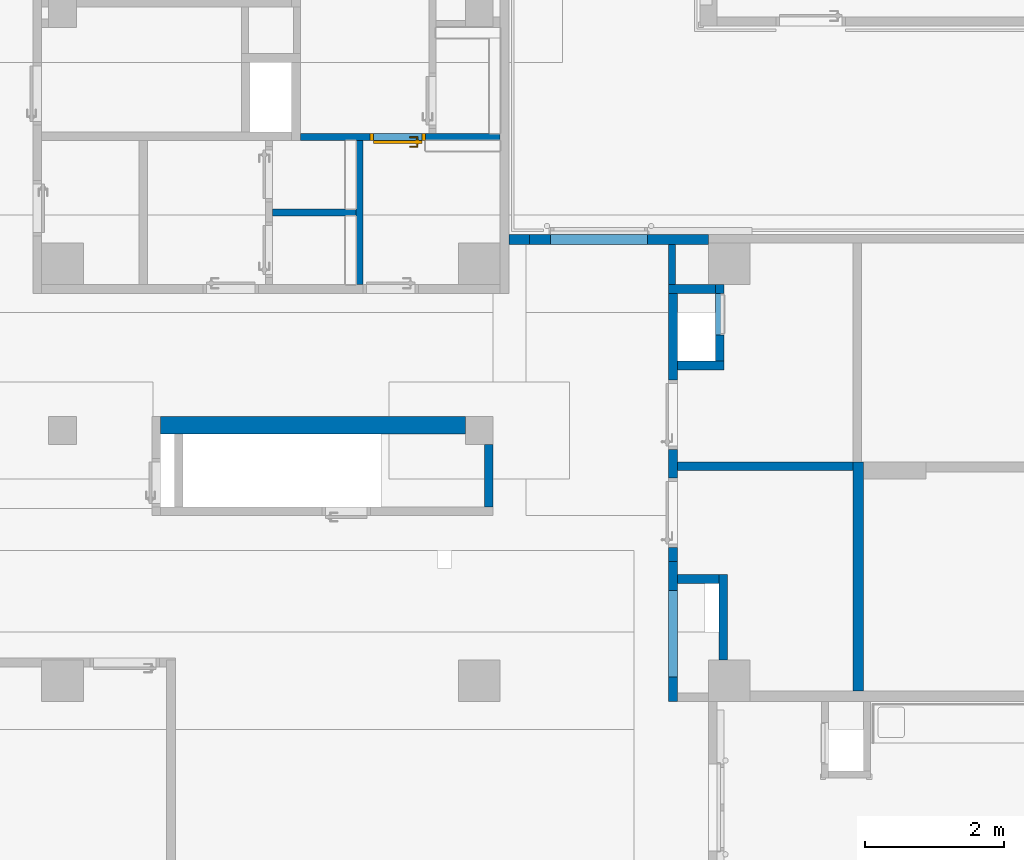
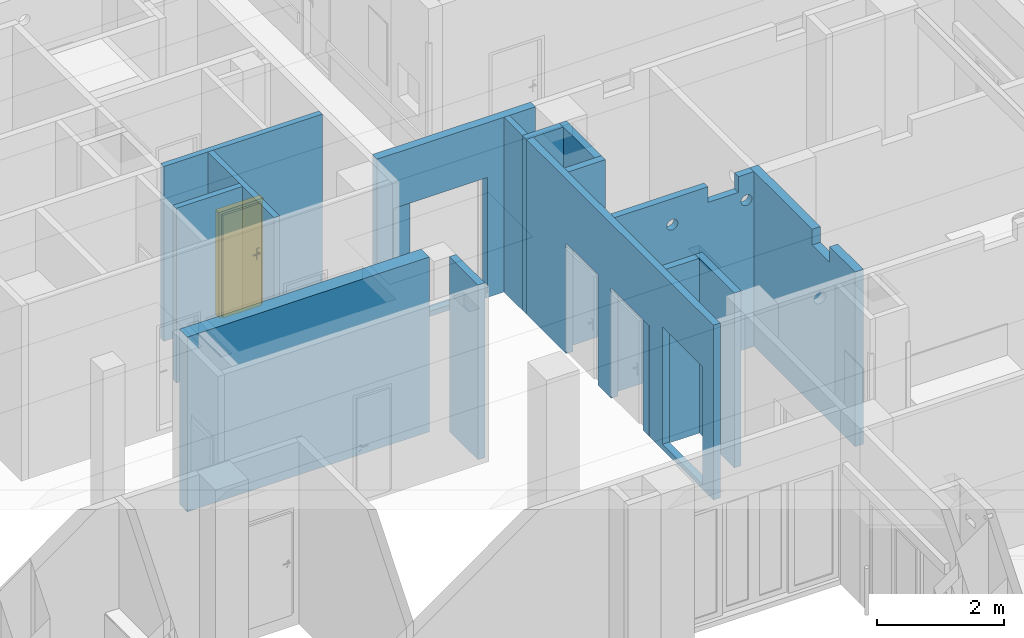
# One storey, part 41 of 140: 17 walls, 1 door, 12 openings.
"""IFC4 building model written with IfcOpenShell, lengths in metres."""

from ifc_helpers import new_model, entity, si_unit, converted_unit, derived_unit, frame, frame_2d, origin, origin_with_axes, place, context, subcontext, project, spatial, polyline, rectangle, outline, extrude, closed_shell, open_shell, surface_model, source, transform, mapped, material, layer, layer_set, layer_usage, type_object, element, fill, save


model = new_model("IFC4")

# Units and contexts
model_context = context("Model", 3, precision=1e-05, world=origin())
body_context = subcontext(model_context, "Body", "Model", "MODEL_VIEW")
ifc_project = project(units=[si_unit("LENGTHUNIT", "METRE"), si_unit("AREAUNIT", "SQUARE_METRE"), si_unit("VOLUMEUNIT", "CUBIC_METRE"), si_unit("MASSUNIT", "GRAM", prefix="KILO"), converted_unit("PLANEANGLEUNIT", "DEGREE", entity("IfcPlaneAngleMeasure", 0.0174532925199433), si_unit("PLANEANGLEUNIT", "RADIAN"), dimensions=[0, 0, 0, 0, 0, 0, 0]), derived_unit("THERMALTRANSMITTANCEUNIT", [(si_unit("POWERUNIT", "WATT"), 1), (si_unit("THERMODYNAMICTEMPERATUREUNIT", "KELVIN"), -1), (si_unit("LENGTHUNIT", "METRE"), -2)]), derived_unit("VOLUMETRICFLOWRATEUNIT", [(si_unit("LENGTHUNIT", "METRE"), 3), (converted_unit("TIMEUNIT", "hour", entity("IfcTimeMeasure", 3600.0), si_unit("TIMEUNIT", "SECOND"), dimensions=[0, 0, 1, 0, 0, 0, 0]), -1), (si_unit("LENGTHUNIT", "METRE"), -1)])], contexts=[model_context])

# Site, building, storey
site_placement = place(None, origin())
site = spatial("IfcSite", under=ifc_project, at=site_placement, Name="3. ASŘ", CompositionType="ELEMENT")
building_placement = place(site_placement, origin())
building = spatial("IfcBuilding", under=site, at=building_placement, Name="Pavilon C", CompositionType="ELEMENT")
storey_placement = place(building_placement, origin())
storey = spatial("IfcBuildingStorey", under=building, at=storey_placement, Name="Půdorys 1.NP", CompositionType="ELEMENT", Elevation=0.0)

# Walls
ifc_material_1 = material(Name="ZDIVO Z CDm")
ifc_layer_1 = layer(ifc_material_1, 0.125)
ifc_layer_set_1 = layer_set([ifc_layer_1])
ifc_layer_usage_1 = layer_usage(ifc_layer_set_1, "AXIS2", "POSITIVE", 0.0)
wall_1_placement = place(storey_placement, frame((40.425, 10.6, -0.1), z_axis=(0.0, 0.0, 1.0), x_axis=(0.0, -1.0, 0.0)))
element("IfcWall", 1, at=wall_1_placement, inside=storey, material=ifc_layer_usage_1, Name="ZDIVO Z CDm", context=body_context, shape_type="SweptSolid", body=[
    extrude(rectangle(XDim=0.9, YDim=0.125, at=frame_2d((0.45, 0.0625), x_axis=(1.0, 0.0))), origin_with_axes(), (0.0, 0.0, 1.0), 3.35),
])
ifc_material_2 = material(Name="ZDIVO Z CDm")
ifc_layer_2 = layer(ifc_material_2, 0.25)
ifc_layer_set_2 = layer_set([ifc_layer_2])
ifc_layer_usage_2 = layer_usage(ifc_layer_set_2, "AXIS2", "POSITIVE", 0.0)
wall_2_placement = place(storey_placement, frame((35.7625, 10.75, -0.1)))
element("IfcWall", 2, at=wall_2_placement, inside=storey, material=ifc_layer_usage_2, Name="ZDIVO Z CDm", context=body_context, shape_type="SweptSolid", body=[
    extrude(rectangle(XDim=4.3875, YDim=0.25, at=frame_2d((2.19375, 0.125), x_axis=(1.0, 0.0))), origin_with_axes(), (0.0, 0.0, 1.0), 3.35),
])
ifc_material_3 = material(Name="YTONG 100")
ifc_layer_3 = layer(ifc_material_3, 0.1)
ifc_layer_set_3 = layer_set([ifc_layer_3])
ifc_layer_usage_3 = layer_usage(ifc_layer_set_3, "AXIS2", "POSITIVE", 0.0)
wall_3_placement = place(storey_placement, frame((38.675, 12.9, -0.1), z_axis=(0.0, 0.0, 1.0), x_axis=(0.0, 1.0, 0.0)))
element("IfcWall", 3, at=wall_3_placement, inside=storey, material=ifc_layer_usage_3, Name="YTONG 100", context=body_context, shape_type="SweptSolid", body=[
    extrude(rectangle(XDim=2.075, YDim=0.1, at=frame_2d((1.0375, 0.05), x_axis=(1.0, 0.0))), origin_with_axes(), (0.0, 0.0, 1.0), 3.35),
])

# Wall, opening, door
ifc_material_4 = material(Name="YTONG 100")
ifc_layer_4 = layer(ifc_material_4, 0.1)
ifc_layer_set_4 = layer_set([ifc_layer_4])
ifc_layer_usage_4 = layer_usage(ifc_layer_set_4, "AXIS2", "POSITIVE", 0.0)
wall_4_placement = place(storey_placement, frame((37.775, 14.975, -0.1)))
wall_4 = element("IfcWall", 4, at=wall_4_placement, inside=storey, material=ifc_layer_usage_4, Name="YTONG 100", context=body_context, shape_type="SweptSolid", body=[
    extrude(rectangle(XDim=2.875, YDim=0.1, at=frame_2d((1.4375, 0.05), x_axis=(1.0, 0.0))), origin_with_axes(), (0.0, 0.0, 1.0), 3.35),
])
opening_1_placement = place(wall_4_placement, frame((1.0, 0.0, 0.1), z_axis=(0.0, 1.0, 0.0), x_axis=(0.0, 0.0, 1.0)))
opening_1 = element("IfcOpeningElement", 5, at=opening_1_placement, cuts=wall_4, Name="Dveřní otvor", ObjectType="Opening", context=body_context, shape_type="SweptSolid", body=[
    extrude(outline(polyline([(0.0, 0.8), (2.02, 0.8), (2.02, 0.0), (0.0, 0.0), (0.0, 0.8)])), origin_with_axes(), (0.0, 0.0, 1.0), 0.1),
])
door_type = type_object("IfcDoorType", Name="D101", OperationType="NOTDEFINED", ParameterTakesPrecedence=False, PredefinedType="DOOR")
shared_shape = source(origin_with_axes(), body_context, "Body", "SurfaceModel", [
    surface_model("IfcShellBasedSurfaceModel", [(0.0, 0.1, 2.02), (0.0, 0.1, -6.12323399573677e-18), (0.05, 0.1, -6.12323399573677e-18), (0.05, 0.1, 2.02), (0.0, 0.0, 6.12323399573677e-18), (0.0, 2.41584530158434e-16, 2.02), (0.05, 2.41584530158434e-16, 2.02), (0.05, 0.0, 6.12323399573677e-18)], [closed_shell([[[0, 1, 2, 3]], [[4, 5, 6, 7]], [[1, 0, 5, 4]], [[2, 1, 4, 7]], [[3, 2, 7, 6]], [[0, 3, 6, 5]]], orient=[[False], [False], [False], [False], [False], [False]])]),
    surface_model("IfcShellBasedSurfaceModel", [(0.75, 0.1, 2.02), (0.75, 0.1, -6.12323399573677e-18), (0.8, 0.1, -6.12323399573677e-18), (0.8, 0.1, 2.02), (0.75, 0.0, 6.12323399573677e-18), (0.75, 2.41584530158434e-16, 2.02), (0.8, 2.41584530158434e-16, 2.02), (0.8, 0.0, 6.12323399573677e-18)], [closed_shell([[[0, 1, 2, 3]], [[4, 5, 6, 7]], [[1, 0, 5, 4]], [[2, 1, 4, 7]], [[3, 2, 7, 6]], [[0, 3, 6, 5]]], orient=[[False], [False], [False], [False], [False], [False]])]),
    surface_model("IfcShellBasedSurfaceModel", [(0.05, 0.1, 2.02), (0.05, 0.1, 1.97), (0.75, 0.1, 1.97), (0.75, 0.1, 2.02), (0.05, 2.41584530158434e-16, 1.97), (0.05, 2.41584530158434e-16, 2.02), (0.75, 2.41584530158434e-16, 2.02), (0.75, 2.41584530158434e-16, 1.97)], [closed_shell([[[0, 1, 2, 3]], [[4, 5, 6, 7]], [[1, 0, 5, 4]], [[2, 1, 4, 7]], [[3, 2, 7, 6]], [[0, 3, 6, 5]]], orient=[[False], [False], [False], [False], [False], [False]])]),
    surface_model("IfcShellBasedSurfaceModel", [(0.05, 0.14, 1.97), (0.05, 0.14, -1.10218211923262e-17), (0.75, 0.14, -1.10218211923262e-17), (0.75, 0.14, 1.97), (0.05, 0.1, -6.12323399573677e-18), (0.05, 0.1, 1.97), (0.75, 0.1, 1.97), (0.75, 0.1, -6.12323399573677e-18)], [closed_shell([[[0, 1, 2, 3]], [[4, 5, 6, 7]], [[1, 0, 5, 4]], [[2, 1, 4, 7]], [[3, 2, 7, 6]], [[0, 3, 6, 5]]], orient=[[False], [False], [False], [False], [False], [False]])]),
    surface_model("IfcShellBasedSurfaceModel", [(0.66, 0.1, 1.125), (0.66, 0.1, 0.91), (0.71, 0.1, 0.91), (0.71, 0.1, 1.125), (0.66, 0.0900000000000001, 0.91), (0.66, 0.0900000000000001, 1.125), (0.71, 0.0900000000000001, 1.125), (0.71, 0.0900000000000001, 0.91)], [closed_shell([[[0, 1, 2, 3]], [[4, 5, 6, 7]], [[1, 0, 5, 4]], [[2, 1, 4, 7]], [[3, 2, 7, 6]], [[0, 3, 6, 5]]], orient=[[False], [False], [False], [False], [False], [False]])]),
    surface_model("IfcShellBasedSurfaceModel", [(0.685, 0.0900000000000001, 1.06), (0.68, 0.0900000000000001, 1.05866025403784), (0.676339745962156, 0.0900000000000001, 1.055), (0.675, 0.0900000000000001, 1.05), (0.676339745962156, 0.0900000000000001, 1.045), (0.68, 0.0900000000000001, 1.04133974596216), (0.685, 0.0900000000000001, 1.04), (0.69, 0.0900000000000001, 1.04133974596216), (0.693660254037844, 0.0900000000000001, 1.045), (0.695, 0.0900000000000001, 1.05), (0.693660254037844, 0.0900000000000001, 1.055), (0.69, 0.0900000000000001, 1.05866025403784), (0.69, 0.0450000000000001, 1.05866025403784), (0.685, 0.0500000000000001, 1.06), (0.693660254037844, 0.0413397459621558, 1.055), (0.695, 0.0400000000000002, 1.05), (0.693660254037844, 0.0413397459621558, 1.045), (0.69, 0.0450000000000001, 1.04133974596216), (0.685, 0.0500000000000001, 1.04), (0.68, 0.0550000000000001, 1.04133974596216), (0.676339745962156, 0.0586602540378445, 1.045), (0.675, 0.0600000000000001, 1.05), (0.676339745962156, 0.0586602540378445, 1.055), (0.68, 0.0550000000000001, 1.05866025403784), (0.57, 0.0450000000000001, 1.05866025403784), (0.57, 0.0500000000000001, 1.06), (0.57, 0.0413397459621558, 1.055), (0.57, 0.0400000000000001, 1.05), (0.57, 0.0413397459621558, 1.045), (0.57, 0.0450000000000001, 1.04133974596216), (0.57, 0.0500000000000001, 1.04), (0.57, 0.0550000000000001, 1.04133974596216), (0.57, 0.0586602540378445, 1.045), (0.57, 0.0600000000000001, 1.05), (0.57, 0.0586602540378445, 1.055), (0.57, 0.0550000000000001, 1.05866025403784)], [open_shell([[[0, 1, 2, 3, 4, 5, 6, 7, 8, 9, 10, 11]], [[0, 11, 12, 13]], [[11, 10, 14, 12]], [[10, 9, 15, 14]], [[9, 8, 16, 15]], [[8, 7, 17, 16]], [[7, 6, 18, 17]], [[6, 5, 19, 18]], [[5, 4, 20, 19]], [[4, 3, 21, 20]], [[3, 2, 22, 21]], [[2, 1, 23, 22]], [[1, 0, 13, 23]], [[13, 12, 24, 25]], [[12, 14, 26, 24]], [[14, 15, 27, 26]], [[15, 16, 28, 27]], [[16, 17, 29, 28]], [[17, 18, 30, 29]], [[18, 19, 31, 30]], [[19, 20, 32, 31]], [[20, 21, 33, 32]], [[21, 22, 34, 33]], [[22, 23, 35, 34]], [[23, 13, 25, 35]]], orient=[[False], [False], [False], [False], [False], [False], [False], [False], [False], [False], [False], [False], [False], [False], [False], [False], [False], [False], [False], [False], [False], [False], [False], [False], [False]])]),
    surface_model("IfcShellBasedSurfaceModel", [(0.66, 0.14, 1.125), (0.71, 0.14, 1.125), (0.71, 0.14, 0.91), (0.66, 0.14, 0.91), (0.66, 0.15, 0.91), (0.71, 0.15, 0.91), (0.71, 0.15, 1.125), (0.66, 0.15, 1.125)], [closed_shell([[[0, 1, 2, 3]], [[4, 5, 6, 7]], [[3, 4, 7, 0]], [[2, 5, 4, 3]], [[1, 6, 5, 2]], [[0, 7, 6, 1]]], orient=[[False], [False], [False], [False], [False], [False]])]),
    surface_model("IfcShellBasedSurfaceModel", [(0.685, 0.15, 1.06), (0.69, 0.15, 1.05866025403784), (0.693660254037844, 0.15, 1.055), (0.695, 0.15, 1.05), (0.693660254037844, 0.15, 1.045), (0.69, 0.15, 1.04133974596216), (0.685, 0.15, 1.04), (0.68, 0.15, 1.04133974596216), (0.676339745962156, 0.15, 1.045), (0.675, 0.15, 1.05), (0.676339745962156, 0.15, 1.055), (0.68, 0.15, 1.05866025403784), (0.685, 0.19, 1.06), (0.69, 0.195, 1.05866025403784), (0.693660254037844, 0.198660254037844, 1.055), (0.695, 0.2, 1.05), (0.693660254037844, 0.198660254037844, 1.045), (0.69, 0.195, 1.04133974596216), (0.685, 0.19, 1.04), (0.68, 0.185, 1.04133974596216), (0.676339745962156, 0.181339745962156, 1.045), (0.675, 0.18, 1.05), (0.676339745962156, 0.181339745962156, 1.055), (0.68, 0.185, 1.05866025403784), (0.57, 0.19, 1.06), (0.57, 0.195, 1.05866025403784), (0.57, 0.198660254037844, 1.055), (0.57, 0.2, 1.05), (0.57, 0.198660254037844, 1.045), (0.57, 0.195, 1.04133974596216), (0.57, 0.19, 1.04), (0.57, 0.185, 1.04133974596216), (0.57, 0.181339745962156, 1.045), (0.57, 0.18, 1.05), (0.57, 0.181339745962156, 1.055), (0.57, 0.185, 1.05866025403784)], [open_shell([[[0, 1, 2, 3, 4, 5, 6, 7, 8, 9, 10, 11]], [[0, 12, 13, 1]], [[1, 13, 14, 2]], [[2, 14, 15, 3]], [[3, 15, 16, 4]], [[4, 16, 17, 5]], [[5, 17, 18, 6]], [[6, 18, 19, 7]], [[7, 19, 20, 8]], [[8, 20, 21, 9]], [[9, 21, 22, 10]], [[10, 22, 23, 11]], [[11, 23, 12, 0]], [[12, 24, 25, 13]], [[13, 25, 26, 14]], [[14, 26, 27, 15]], [[15, 27, 28, 16]], [[16, 28, 29, 17]], [[17, 29, 30, 18]], [[18, 30, 31, 19]], [[19, 31, 32, 20]], [[20, 32, 33, 21]], [[21, 33, 34, 22]], [[22, 34, 35, 23]], [[23, 35, 24, 12]]], orient=[[False], [False], [False], [False], [False], [False], [False], [False], [False], [False], [False], [False], [False], [False], [False], [False], [False], [False], [False], [False], [False], [False], [False], [False], [False]])]),
])
door_placement = place(opening_1_placement, frame((0.0, 0.0, 0.1), z_axis=(1.0, 0.0, 0.0), x_axis=(0.0, 1.0, -1.22464679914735e-16)))
door = element("IfcDoor", 6, at=door_placement, inside=storey, type_object=door_type, Name="D101", OverallHeight=2.02, OverallWidth=0.8, context=body_context, shape_type="MappedRepresentation", body=[
    mapped(shared_shape, transform((0.0, 0.0, 0.0), x_axis=(1.0, 0.0, 0.0), y_axis=(0.0, -1.0, 0.0), z_axis=(0.0, 0.0, 1.0), scale=1.0)),
])
fill(opening_1, door)

# Wall
ifc_material_5 = material(Name="YTONG 100")
ifc_layer_5 = layer(ifc_material_5, 0.1)
ifc_layer_set_5 = layer_set([ifc_layer_5])
ifc_layer_usage_5 = layer_usage(ifc_layer_set_5, "AXIS2", "POSITIVE", -0.05)
wall_5_placement = place(storey_placement, frame((37.375, 13.8875, -0.1)))
element("IfcWall", 7, at=wall_5_placement, inside=storey, material=ifc_layer_usage_5, Name="YTONG 100", context=body_context, shape_type="SweptSolid", body=[
    extrude(rectangle(XDim=1.2, YDim=0.1, at=frame_2d((0.6, 0.05), x_axis=(1.0, 0.0))), origin_with_axes(), (0.0, 0.0, 1.0), 3.35),
])

# Wall, openings
ifc_material_6 = material(Name="ZDIVO Z CDm")
ifc_layer_6 = layer(ifc_material_6, 0.125)
ifc_layer_set_6 = layer_set([ifc_layer_6])
ifc_layer_usage_6 = layer_usage(ifc_layer_set_6, "AXIS2", "POSITIVE", 0.0)
wall_6_placement = place(storey_placement, frame((43.2, 6.89999999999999, -0.1), z_axis=(0.0, 0.0, 1.0), x_axis=(0.0, 1.0, 0.0)))
wall_6 = element("IfcWall", 8, at=wall_6_placement, inside=storey, material=ifc_layer_usage_6, Name="ZDIVO Z CDm", context=body_context, shape_type="SweptSolid", body=[
    extrude(rectangle(XDim=5.875, YDim=0.125, at=frame_2d((2.9375, 0.0625), x_axis=(1.0, 0.0))), origin_with_axes(), (0.0, 0.0, 1.0), 3.35),
])
opening_2_placement = place(wall_6_placement, frame((1.6, 0.125, 0.1), z_axis=(0.0, -1.0, 0.0), x_axis=(0.0, 0.0, 1.0)))
element("IfcOpeningElement", 9, at=opening_2_placement, cuts=wall_6, Name="Dveřní otvor", ObjectType="Opening", context=body_context, shape_type="SweptSolid", body=[
    extrude(outline(polyline([(0.0, 1.25), (2.25, 1.25), (2.25, 0.0), (0.0, 0.0), (0.0, 1.25)])), origin_with_axes(), (0.0, 0.0, 1.0), 0.125),
])
opening_3_placement = place(wall_6_placement, frame((2.015, 0.0, 0.0), z_axis=(0.0, 1.0, 0.0), x_axis=(0.0, 0.0, 1.0)))
element("IfcOpeningElement", 10, at=opening_3_placement, cuts=wall_6, Name="Dveřní otvor", ObjectType="Opening", context=body_context, shape_type="SweptSolid", body=[
    extrude(outline(polyline([(0.0, 1.2), (2.12, 1.2), (2.12, 0.0), (0.0, 0.0), (0.0, 1.2)])), origin_with_axes(), (0.0, 0.0, 1.0), 0.125),
])
opening_4_placement = place(wall_6_placement, frame((4.625, 0.125, 0.0), z_axis=(0.0, -1.0, 0.0), x_axis=(0.0, 0.0, 1.0)))
element("IfcOpeningElement", 11, at=opening_4_placement, cuts=wall_6, Name="Dveřní otvor", ObjectType="Opening", context=body_context, shape_type="SweptSolid", body=[
    extrude(outline(polyline([(0.0, 1.0), (2.12, 1.0), (2.12, 0.0), (0.0, 0.0), (0.0, 1.0)])), origin_with_axes(), (0.0, 0.0, 1.0), 0.125),
])

# Wall, opening
ifc_material_7 = material(Name="ZDIVO Z CDm")
ifc_layer_7 = layer(ifc_material_7, 0.125)
ifc_layer_set_7 = layer_set([ifc_layer_7])
ifc_layer_usage_7 = layer_usage(ifc_layer_set_7, "AXIS2", "POSITIVE", 0.0)
wall_7_placement = place(storey_placement, frame((43.75, 12.9, -0.1), z_axis=(0.0, 0.0, 1.0), x_axis=(0.0, -1.0, 0.0)))
wall_7 = element("IfcWall", 12, at=wall_7_placement, inside=storey, material=ifc_layer_usage_7, Name="ZDIVO Z CDm", context=body_context, shape_type="SweptSolid", body=[
    extrude(rectangle(XDim=1.1, YDim=0.125, at=frame_2d((0.55, 0.0625), x_axis=(1.0, 0.0))), origin_with_axes(), (0.0, 0.0, 1.0), 3.35),
])
opening_5_placement = place(wall_7_placement, frame((0.725000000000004, 0.125, 1.1), z_axis=(0.0, -1.0, 0.0), x_axis=(0.0, 0.0, 1.0)))
element("IfcOpeningElement", 13, at=opening_5_placement, cuts=wall_7, Name="Okenní otvor", ObjectType="Opening", context=body_context, shape_type="SweptSolid", body=[
    extrude(outline(polyline([(0.0, 0.6), (1.2, 0.6), (1.2, 0.0), (0.0, 0.0), (0.0, 0.6)])), origin_with_axes(), (0.0, 0.0, 1.0), 0.125),
])

# Walls
ifc_material_8 = material(Name="ZDIVO Z CDm")
ifc_layer_8 = layer(ifc_material_8, 0.125)
ifc_layer_set_8 = layer_set([ifc_layer_8])
ifc_layer_usage_8 = layer_usage(ifc_layer_set_8, "AXIS2", "POSITIVE", 0.0)
wall_8_placement = place(storey_placement, frame((43.875, 11.8, -0.1), z_axis=(0.0, 0.0, 1.0), x_axis=(-1.0, 0.0, 0.0)))
element("IfcWall", 14, at=wall_8_placement, inside=storey, material=ifc_layer_usage_8, Name="ZDIVO Z CDm", context=body_context, shape_type="SweptSolid", body=[
    extrude(rectangle(XDim=0.675, YDim=0.125, at=frame_2d((0.3375, 0.0625), x_axis=(1.0, 0.0))), origin_with_axes(), (0.0, 0.0, 1.0), 3.35),
])
ifc_material_9 = material(Name="ZDIVO Z CDm")
ifc_layer_9 = layer(ifc_material_9, 0.125)
ifc_layer_set_9 = layer_set([ifc_layer_9])
ifc_layer_usage_9 = layer_usage(ifc_layer_set_9, "AXIS2", "POSITIVE", 0.0)
wall_9_placement = place(storey_placement, frame((43.8, 8.72499999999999, -0.1), z_axis=(0.0, 0.0, 1.0), x_axis=(0.0, -1.0, 0.0)))
element("IfcWall", 15, at=wall_9_placement, inside=storey, material=ifc_layer_usage_9, Name="ZDIVO Z CDm", context=body_context, shape_type="SweptSolid", body=[
    extrude(rectangle(XDim=1.225, YDim=0.125, at=frame_2d((0.6125, 0.0625), x_axis=(1.0, 0.0))), origin_with_axes(), (0.0, 0.0, 1.0), 3.35),
])
ifc_material_10 = material(Name="ZDIVO Z CDm")
ifc_layer_10 = layer(ifc_material_10, 0.125)
ifc_layer_set_10 = layer_set([ifc_layer_10])
ifc_layer_usage_10 = layer_usage(ifc_layer_set_10, "AXIS2", "POSITIVE", 0.0)
wall_10_placement = place(storey_placement, frame((43.2, 8.59999999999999, -0.1)))
element("IfcWall", 16, at=wall_10_placement, inside=storey, material=ifc_layer_usage_10, Name="ZDIVO Z CDm", context=body_context, shape_type="SweptSolid", body=[
    extrude(rectangle(XDim=0.6, YDim=0.125, at=frame_2d((0.3, 0.0625), x_axis=(1.0, 0.0))), origin_with_axes(), (0.0, 0.0, 1.0), 3.35),
])
ifc_material_11 = material(Name="ZDIVO Z CDm")
ifc_layer_11 = layer(ifc_material_11, 0.125)
ifc_layer_set_11 = layer_set([ifc_layer_11])
ifc_layer_usage_11 = layer_usage(ifc_layer_set_11, "AXIS2", "POSITIVE", 0.0)
wall_11_placement = place(storey_placement, frame((43.075, 12.775, -0.1)))
element("IfcWall", 17, at=wall_11_placement, inside=storey, material=ifc_layer_usage_11, Name="ZDIVO Z CDm", context=body_context, shape_type="SweptSolid", body=[
    extrude(rectangle(XDim=0.675, YDim=0.125, at=frame_2d((0.3375, 0.0625), x_axis=(1.0, 0.0))), origin_with_axes(), (0.0, 0.0, 1.0), 3.35),
])
ifc_material_12 = material(Name="YTONG 100")
ifc_layer_12 = layer(ifc_material_12, 0.1)
ifc_layer_set_12 = layer_set([ifc_layer_12])
ifc_layer_usage_12 = layer_usage(ifc_layer_set_12, "AXIS2", "POSITIVE", 0.0)
wall_12_placement = place(storey_placement, frame((43.075, 13.475, -0.1), z_axis=(0.0, 0.0, 1.0), x_axis=(0.0, -1.0, 0.0)))
element("IfcWall", 18, at=wall_12_placement, inside=storey, material=ifc_layer_usage_12, Name="YTONG 100", context=body_context, shape_type="SweptSolid", body=[
    extrude(rectangle(XDim=0.575000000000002, YDim=0.1, at=frame_2d((0.287500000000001, 0.05), x_axis=(1.0, 0.0))), origin_with_axes(), (0.0, 0.0, 1.0), 3.35),
])

# Wall, opening
ifc_material_13 = material(Name="YTONG 150")
ifc_layer_13 = layer(ifc_material_13, 0.15)
ifc_layer_set_13 = layer_set([ifc_layer_13])
ifc_layer_usage_13 = layer_usage(ifc_layer_set_13, "AXIS2", "POSITIVE", 0.0)
wall_13_placement = place(storey_placement, frame((43.65, 13.625, -0.1), z_axis=(0.0, 0.0, 1.0), x_axis=(-1.0, 0.0, 0.0)))
wall_13 = element("IfcWall", 19, at=wall_13_placement, inside=storey, material=ifc_layer_usage_13, Name="YTONG 150", context=body_context, shape_type="SweptSolid", body=[
    extrude(rectangle(XDim=2.875, YDim=0.15, at=frame_2d((1.4375, 0.075), x_axis=(1.0, 0.0))), origin_with_axes(), (0.0, 0.0, 1.0), 3.35),
])
opening_6_placement = place(wall_13_placement, frame((2.575, 0.15, 0.1), z_axis=(0.0, -1.0, 0.0), x_axis=(0.0, 0.0, 1.0)))
element("IfcOpeningElement", 20, at=opening_6_placement, cuts=wall_13, Name="Dveřní otvor", ObjectType="Opening", context=body_context, shape_type="SweptSolid", body=[
    extrude(outline(polyline([(0.0, 1.7), (2.2, 1.7), (2.2, 0.0), (0.0, 0.0), (0.0, 1.7)])), origin_with_axes(), (0.0, 0.0, 1.0), 0.15),
])

ifc_material_14 = material(Name="YTONG 125")
ifc_layer_14 = layer(ifc_material_14, 0.125)
ifc_layer_set_14 = layer_set([ifc_layer_14])
ifc_layer_usage_14 = layer_usage(ifc_layer_set_14, "AXIS2", "POSITIVE", 0.0)
wall_14_placement = place(storey_placement, frame((43.2, 8.915, -0.1), z_axis=(0.0, 0.0, 1.0), x_axis=(0.0, 1.0, 0.0)))
wall_14 = element("IfcWall", 21, at=wall_14_placement, inside=storey, material=ifc_layer_usage_14, Name="YTONG 125", context=body_context, shape_type="SweptSolid", body=[
    extrude(rectangle(XDim=1.2, YDim=0.125, at=frame_2d((0.6, 0.0625), x_axis=(1.0, 0.0))), origin_with_axes(), (0.0, 0.0, 1.0), 2.12),
])
opening_7_placement = place(wall_14_placement, frame((1.2, 0.125, 0.0), z_axis=(0.0, -1.0, 0.0), x_axis=(0.0, 0.0, 1.0)))
element("IfcOpeningElement", 22, at=opening_7_placement, cuts=wall_14, Name="Dveřní otvor", ObjectType="Opening", context=body_context, shape_type="SweptSolid", body=[
    extrude(outline(polyline([(0.0, 1.0), (2.12, 1.0), (2.12, 0.0), (0.0, 0.0), (0.0, 1.0)])), origin_with_axes(), (0.0, 0.0, 1.0), 0.125),
])

# Wall
ifc_material_15 = material(Name="YTONG 150")
ifc_layer_15 = layer(ifc_material_15, 0.15)
ifc_layer_set_15 = layer_set([ifc_layer_15])
ifc_layer_usage_15 = layer_usage(ifc_layer_set_15, "AXIS2", "POSITIVE", 0.0)
wall_15_placement = place(storey_placement, frame((41.375, 13.625, 0.0), z_axis=(0.0, 0.0, 1.0), x_axis=(-1.0, 0.0, 0.0)))
element("IfcWall", 23, at=wall_15_placement, inside=storey, material=ifc_layer_usage_15, Name="YTONG 150", context=body_context, shape_type="SweptSolid", body=[
    extrude(rectangle(XDim=0.3, YDim=0.15, at=frame_2d((0.15, 0.075), x_axis=(1.0, 0.0))), origin_with_axes(), (0.0, 0.0, 1.0), 2.2),
])

# Wall, opening
ifc_material_16 = material(Name="SDK - 1 KCE + DVOJITÉ OPLÁŠTĚNÍ")
ifc_layer_16 = layer(ifc_material_16, 0.15)
ifc_layer_set_16 = layer_set([ifc_layer_16])
ifc_layer_usage_16 = layer_usage(ifc_layer_set_16, "AXIS2", "POSITIVE", 0.0)
wall_16_placement = place(storey_placement, frame((45.73, 10.35, -0.1), z_axis=(0.0, 0.0, 1.0), x_axis=(0.0, -1.0, 0.0)))
wall_16 = element("IfcWall", 24, at=wall_16_placement, inside=storey, material=ifc_layer_usage_16, Name="SDK - 1 KCE + DVOJITÉ OPLÁŠTĚNÍ", context=body_context, shape_type="SweptSolid", body=[
    extrude(rectangle(XDim=3.29999999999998, YDim=0.15, at=frame_2d((1.64999999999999, 0.075), x_axis=(1.0, 0.0))), origin_with_axes(), (0.0, 0.0, 1.0), 3.35),
])
opening_8_placement = place(wall_16_placement, frame((2.50000664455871, 0.15, 3.05), z_axis=(0.0, -1.0, 0.0), x_axis=(0.0, 0.0, 1.0)))
element("IfcOpeningElement", 25, at=opening_8_placement, cuts=wall_16, Name="VZT", ObjectType="Opening", context=body_context, shape_type="SweptSolid", body=[
    extrude(outline(polyline([(0.0, 0.549999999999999), (0.3, 0.549999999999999), (0.3, 0.0), (0.0, 0.0), (0.0, 0.549999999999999)])), origin_with_axes(), (0.0, 0.0, 1.0), 0.15),
])

# Wall, openings
ifc_material_17 = material(Name="SDK - 1 KCE + DVOJITÉ OPLÁŠTĚNÍ")
ifc_layer_17 = layer(ifc_material_17, 0.125)
ifc_layer_set_17 = layer_set([ifc_layer_17])
ifc_layer_usage_17 = layer_usage(ifc_layer_set_17, "AXIS2", "POSITIVE", 0.0)
wall_17_placement = place(storey_placement, frame((45.73, 10.35, -0.1), z_axis=(0.0, 0.0, 1.0), x_axis=(-1.0, 0.0, 0.0)))
wall_17 = element("IfcWall", 26, at=wall_17_placement, inside=storey, material=ifc_layer_usage_17, Name="SDK - 1 KCE + DVOJITÉ OPLÁŠTĚNÍ", context=body_context, shape_type="SweptSolid", body=[
    extrude(rectangle(XDim=2.53, YDim=0.125, at=frame_2d((1.265, 0.0625), x_axis=(1.0, 0.0))), origin_with_axes(), (0.0, 0.0, 1.0), 3.35),
])
opening_9_placement = place(wall_17_placement, frame((0.834426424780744, 0.125, 3.05), z_axis=(0.0, -1.0, 0.0), x_axis=(0.0, 0.0, 1.0)))
element("IfcOpeningElement", 27, at=opening_9_placement, cuts=wall_17, Name="VZT", ObjectType="Opening", context=body_context, shape_type="SweptSolid", body=[
    extrude(outline(polyline([(0.0, 0.55), (0.3, 0.55), (0.3, 0.0), (0.0, 0.0), (0.0, 0.55)])), origin_with_axes(), (0.0, 0.0, 1.0), 0.125),
])
opening_10_placement = place(wall_17_placement, frame((1.08442642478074, 0.125, 0.6), z_axis=(0.0, -1.0, 0.0), x_axis=(0.0, 0.0, 1.0)))
element("IfcOpeningElement", 28, at=opening_10_placement, cuts=wall_17, Name="VZT", ObjectType="Opening", context=body_context, shape_type="SweptSolid", body=[
    extrude(outline(polyline([(0.0, 0.2), (0.1, 0.2), (0.1, 0.0), (0.0, 0.0), (0.0, 0.2)])), origin_with_axes(), (0.0, 0.0, 1.0), 0.124999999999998),
])
opening_11_placement = place(wall_17_placement, frame((0.0344264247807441, 0.0, 2.75), z_axis=(0.0, 1.0, 0.0), x_axis=(0.0, 0.0, 1.0)))
element("IfcOpeningElement", 29, at=opening_11_placement, cuts=wall_17, Name="VZT", ObjectType="Opening", context=body_context, shape_type="SweptSolid", body=[
    extrude(outline(polyline([(0.0999999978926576, 0.2), (0.110452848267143, 0.199452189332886), (0.120791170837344, 0.197814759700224), (0.130901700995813, 0.195105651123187), (0.14067366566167, 0.191354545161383), (0.150000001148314, 0.186602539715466), (0.15877852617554, 0.180901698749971), (0.166913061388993, 0.174314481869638), (0.174314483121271, 0.166913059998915), (0.180901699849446, 0.158778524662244), (0.186602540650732, 0.149999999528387), (0.191354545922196, 0.140673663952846), (0.195105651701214, 0.130901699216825), (0.197814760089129, 0.120791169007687), (0.19945218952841, 0.110452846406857), (0.2, 0.100000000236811), (0.199452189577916, 0.0895471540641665), (0.197814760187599, 0.0792088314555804), (0.195105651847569, 0.0690983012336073), (0.191354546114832, 0.0593263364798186), (0.186602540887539, 0.0500000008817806), (0.180901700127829, 0.0412214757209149), (0.174314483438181, 0.0330869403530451), (0.166913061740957, 0.0256855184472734), (0.158778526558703, 0.0190983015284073), (0.150000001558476, 0.0133974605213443), (0.140673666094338, 0.00864545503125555), (0.130901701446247, 0.00489434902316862), (0.120791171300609, 0.00218524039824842), (0.110452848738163, 0.000547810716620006), (0.0999999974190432, 0.0), (0.0895471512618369, 0.000547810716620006), (0.0792088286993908, 0.00218524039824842), (0.069098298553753, 0.00489434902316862), (0.0593263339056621, 0.00864545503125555), (0.0499999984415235, 0.0133974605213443), (0.0412214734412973, 0.0190983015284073), (0.0330869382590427, 0.0256855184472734), (0.0256855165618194, 0.0330869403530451), (0.0190982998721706, 0.0412214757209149), (0.0133974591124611, 0.0500000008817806), (0.00864545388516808, 0.0593263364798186), (0.00489434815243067, 0.0690983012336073), (0.00218523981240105, 0.0792088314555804), (0.00054781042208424, 0.0895471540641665), (0.0, 0.100000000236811), (0.00054781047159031, 0.110452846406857), (0.00218523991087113, 0.120791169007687), (0.00489434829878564, 0.130901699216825), (0.00864545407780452, 0.140673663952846), (0.013397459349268, 0.149999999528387), (0.0190983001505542, 0.158778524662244), (0.0256855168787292, 0.166913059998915), (0.0330869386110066, 0.174314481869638), (0.0412214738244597, 0.180901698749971), (0.0499999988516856, 0.186602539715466), (0.0593263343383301, 0.191354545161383), (0.0690982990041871, 0.195105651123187), (0.0792088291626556, 0.197814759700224), (0.0895471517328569, 0.199452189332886), (0.0999999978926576, 0.2)])), origin_with_axes(), (0.0, 0.0, 1.0), 0.125),
])
opening_12_placement = place(wall_17_placement, frame((1.38, 0.0, 2.75), z_axis=(0.0, 1.0, 0.0), x_axis=(0.0, 0.0, 1.0)))
element("IfcOpeningElement", 30, at=opening_12_placement, cuts=wall_17, Name="VZT", ObjectType="Opening", context=body_context, shape_type="SweptSolid", body=[
    extrude(outline(polyline([(0.0999999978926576, 0.2), (0.110452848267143, 0.199452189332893), (0.120791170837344, 0.197814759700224), (0.130901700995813, 0.195105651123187), (0.14067366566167, 0.191354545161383), (0.150000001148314, 0.186602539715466), (0.15877852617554, 0.180901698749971), (0.166913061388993, 0.174314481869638), (0.174314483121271, 0.166913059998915), (0.180901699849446, 0.158778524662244), (0.186602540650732, 0.14999999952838), (0.191354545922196, 0.140673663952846), (0.195105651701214, 0.130901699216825), (0.197814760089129, 0.120791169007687), (0.19945218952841, 0.110452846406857), (0.2, 0.100000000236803), (0.199452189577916, 0.0895471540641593), (0.197814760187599, 0.0792088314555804), (0.195105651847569, 0.0690983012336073), (0.191354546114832, 0.0593263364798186), (0.186602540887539, 0.0500000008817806), (0.180901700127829, 0.0412214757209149), (0.174314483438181, 0.0330869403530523), (0.166913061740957, 0.0256855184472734), (0.158778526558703, 0.0190983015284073), (0.150000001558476, 0.0133974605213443), (0.140673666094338, 0.00864545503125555), (0.130901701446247, 0.00489434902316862), (0.120791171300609, 0.00218524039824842), (0.110452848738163, 0.000547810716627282), (0.0999999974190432, 0.0), (0.0895471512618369, 0.000547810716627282), (0.0792088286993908, 0.00218524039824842), (0.069098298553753, 0.00489434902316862), (0.0593263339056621, 0.00864545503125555), (0.0499999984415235, 0.0133974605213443), (0.0412214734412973, 0.0190983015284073), (0.0330869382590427, 0.0256855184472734), (0.0256855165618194, 0.0330869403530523), (0.0190982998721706, 0.0412214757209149), (0.0133974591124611, 0.0500000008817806), (0.00864545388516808, 0.0593263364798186), (0.00489434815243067, 0.0690983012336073), (0.00218523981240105, 0.0792088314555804), (0.00054781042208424, 0.0895471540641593), (0.0, 0.100000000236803), (0.00054781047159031, 0.110452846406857), (0.00218523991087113, 0.120791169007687), (0.00489434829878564, 0.130901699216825), (0.00864545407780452, 0.140673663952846), (0.013397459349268, 0.14999999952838), (0.0190983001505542, 0.158778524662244), (0.0256855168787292, 0.166913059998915), (0.0330869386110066, 0.174314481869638), (0.0412214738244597, 0.180901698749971), (0.0499999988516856, 0.186602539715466), (0.0593263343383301, 0.191354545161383), (0.0690982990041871, 0.195105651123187), (0.0792088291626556, 0.197814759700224), (0.0895471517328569, 0.199452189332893), (0.0999999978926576, 0.2)])), origin_with_axes(), (0.0, 0.0, 1.0), 0.125),
])

save(model, "model.ifc")
